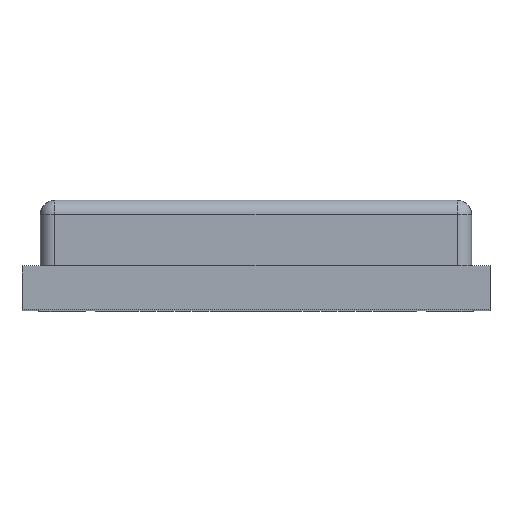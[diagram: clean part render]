
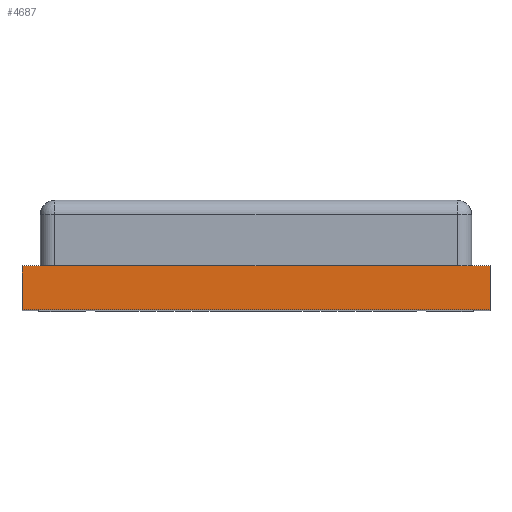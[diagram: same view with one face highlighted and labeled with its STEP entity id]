
A CAD part, top view. The second image highlights one B-rep face of the part: STEP entity #4687.
In plain terms, the highlighted planar face has unit normal (0, 0, 1).
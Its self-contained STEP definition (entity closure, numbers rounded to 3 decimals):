
#64=DIRECTION('',(-1.,0.,0.));
#65=VECTOR('',#64,6.4);
#66=CARTESIAN_POINT('',(3.2,0.,4.2));
#67=LINE('',#66,#65);
#78=DIRECTION('',(0.,1.,0.));
#79=VECTOR('',#78,0.6);
#80=CARTESIAN_POINT('',(-3.2,-0.6,4.2));
#81=LINE('',#80,#79);
#85=DIRECTION('',(0.,1.,0.));
#86=VECTOR('',#85,0.6);
#87=CARTESIAN_POINT('',(3.2,-0.6,4.2));
#88=LINE('',#87,#86);
#106=DIRECTION('',(-1.,0.,0.));
#107=VECTOR('',#106,6.4);
#108=CARTESIAN_POINT('',(3.2,-0.6,4.2));
#109=LINE('',#108,#107);
#3907=CARTESIAN_POINT('',(-3.2,0.,4.2));
#3909=VERTEX_POINT('',#3907);
#3911=CARTESIAN_POINT('',(3.2,0.,4.2));
#3912=VERTEX_POINT('',#3911);
#3915=CARTESIAN_POINT('',(-3.2,-0.6,4.2));
#3917=VERTEX_POINT('',#3915);
#3919=CARTESIAN_POINT('',(3.2,-0.6,4.2));
#3920=VERTEX_POINT('',#3919);
#4674=CARTESIAN_POINT('',(-3.2,0.,4.2));
#4675=DIRECTION('',(0.,0.,1.));
#4676=DIRECTION('',(1.,0.,0.));
#4677=AXIS2_PLACEMENT_3D('',#4674,#4675,#4676);
#4678=PLANE('',#4677);
#4679=ORIENTED_EDGE('',*,*,#4654,.F.);
#4681=ORIENTED_EDGE('',*,*,#4680,.F.);
#4683=ORIENTED_EDGE('',*,*,#4682,.T.);
#4684=ORIENTED_EDGE('',*,*,#4665,.T.);
#4685=EDGE_LOOP('',(#4679,#4681,#4683,#4684));
#4686=FACE_OUTER_BOUND('',#4685,.F.);
#4654=EDGE_CURVE('',#3912,#3909,#67,.T.);
#4665=EDGE_CURVE('',#3917,#3909,#81,.T.);
#4680=EDGE_CURVE('',#3920,#3912,#88,.T.);
#4682=EDGE_CURVE('',#3920,#3917,#109,.T.);
#4687=ADVANCED_FACE('',(#4686),#4678,.T.);
